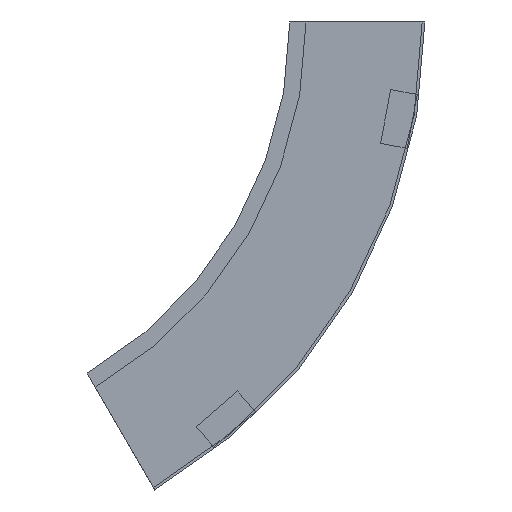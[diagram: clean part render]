
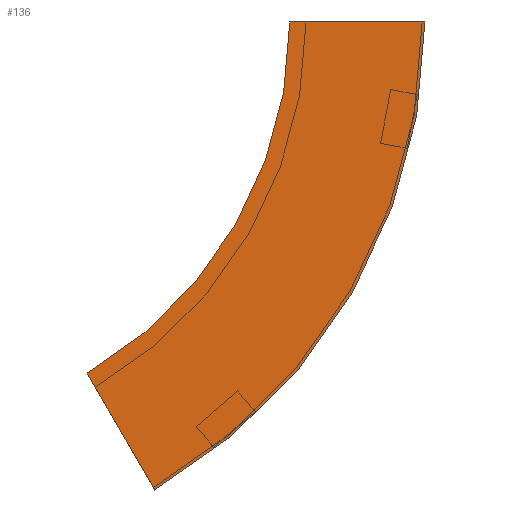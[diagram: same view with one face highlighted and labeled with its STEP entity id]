
A CAD part, left-side view. The second image highlights one B-rep face of the part: STEP entity #136.
In plain terms, the highlighted planar face has unit normal (-1, 0, 0) as drawn and (1, 0, 0) by its records, which use the part's own axes.
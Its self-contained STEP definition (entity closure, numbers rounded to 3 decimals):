
#19 = CARTESIAN_POINT ( 'NONE',  ( 0., -100., 0. ) ) ;
#20 = CARTESIAN_POINT ( 'NONE',  ( 0., -100., 0. ) ) ;
#40 = CARTESIAN_POINT ( 'NONE',  ( 0., 300., 0. ) ) ;
#77 = DIRECTION ( 'NONE',  ( 1., 0., 0. ) ) ;
#81 = DIRECTION ( 'NONE',  ( 0., -1., 0. ) ) ;
#105 = DIRECTION ( 'NONE',  ( 0., 1., 0. ) ) ;
#110 = AXIS2_PLACEMENT_3D ( 'NONE', #40, #77, #81 ) ;
#136 = ADVANCED_FACE ( 'NONE', ( #190 ), #371, .F. ) ;
#146 = EDGE_LOOP ( 'NONE', ( #470, #487, #300, #263 ) ) ;
#160 = CARTESIAN_POINT ( 'NONE',  ( 0., -100., 0. ) ) ;
#165 = CARTESIAN_POINT ( 'NONE',  ( 0., 100., -346.41 ) ) ;
#172 = CARTESIAN_POINT ( 'NONE',  ( 0., 150., -259.808 ) ) ;
#178 = VERTEX_POINT ( 'NONE', #407 ) ;
#190 = FACE_OUTER_BOUND ( 'NONE', #146, .T. ) ;
#198 = DIRECTION ( 'NONE',  ( -1., 0., 0. ) ) ;
#205 = EDGE_CURVE ( 'NONE', #178, #458, #566, .T. ) ;
#254 = LINE ( 'NONE', #160, #418 ) ;
#263 = ORIENTED_EDGE ( 'NONE', *, *, #205, .T. ) ;
#264 = AXIS2_PLACEMENT_3D ( 'NONE', #395, #313, #435 ) ;
#292 = CIRCLE ( 'NONE', #110, 400. ) ;
#299 = EDGE_CURVE ( 'NONE', #524, #514, #254, .T. ) ;
#300 = ORIENTED_EDGE ( 'NONE', *, *, #350, .T. ) ;
#302 = AXIS2_PLACEMENT_3D ( 'NONE', #19, #198, #327 ) ;
#313 = DIRECTION ( 'NONE',  ( 1., 0., 0. ) ) ;
#327 = DIRECTION ( 'NONE',  ( 0., 0., 1. ) ) ;
#350 = EDGE_CURVE ( 'NONE', #524, #178, #292, .T. ) ;
#368 = VECTOR ( 'NONE', #559, 1000. ) ;
#371 = PLANE ( 'NONE',  #302 ) ;
#395 = CARTESIAN_POINT ( 'NONE',  ( 0., 300., 0. ) ) ;
#406 = EDGE_CURVE ( 'NONE', #514, #458, #491, .T. ) ;
#407 = CARTESIAN_POINT ( 'NONE',  ( 0., 100., -346.41 ) ) ;
#418 = VECTOR ( 'NONE', #105, 1000. ) ;
#435 = DIRECTION ( 'NONE',  ( 0., -1., 0. ) ) ;
#458 = VERTEX_POINT ( 'NONE', #172 ) ;
#470 = ORIENTED_EDGE ( 'NONE', *, *, #406, .F. ) ;
#487 = ORIENTED_EDGE ( 'NONE', *, *, #299, .F. ) ;
#491 = CIRCLE ( 'NONE', #264, 300. ) ;
#514 = VERTEX_POINT ( 'NONE', #542 ) ;
#524 = VERTEX_POINT ( 'NONE', #20 ) ;
#542 = CARTESIAN_POINT ( 'NONE',  ( 0., 0., 0. ) ) ;
#559 = DIRECTION ( 'NONE',  ( 0., 0.5, 0.866 ) ) ;
#566 = LINE ( 'NONE', #165, #368 ) ;
